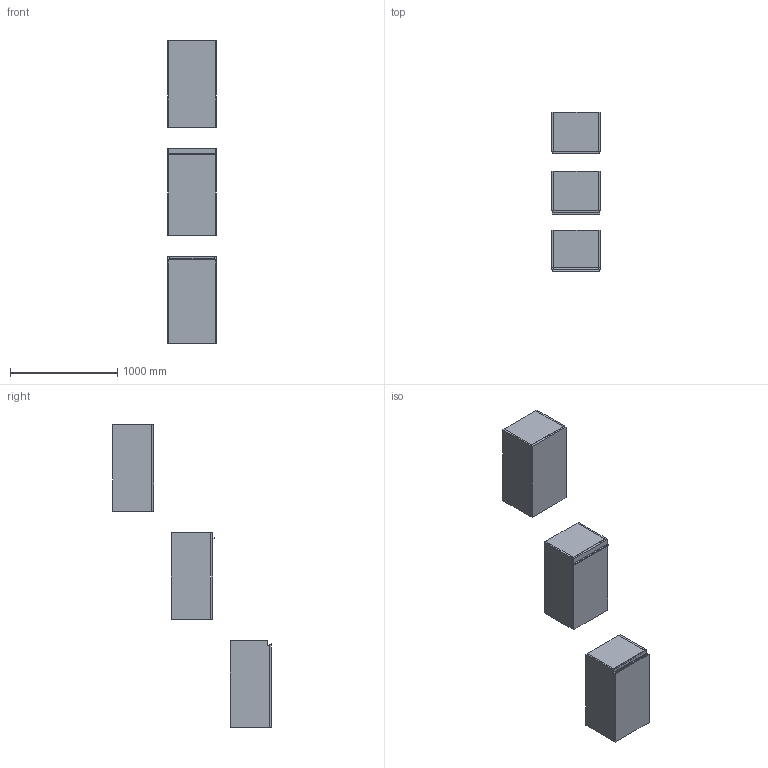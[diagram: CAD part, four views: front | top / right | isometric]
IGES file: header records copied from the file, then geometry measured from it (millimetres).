
Start section: Data from Parasolid IGES Translator 19.0.9, Copyright(c) 2006 Siemens PL M Software. All Rights Reserved.
Global section: file name: noorth-SI-H 81,2 D 38,8 W 45_8689.igs; native system: By Siemens PLM Incorporated; preprocessor: XPlus GENERIC/IGES 19.0.9; author: Noname; organization: Noname; date: 20200601.123859; units: metre
Bounding box: 450.01 x 1485.1 x 2832.01 mm (x, y, z)
Volume: 66214171.4 mm3; surface area: 10086424 mm2
Topology: 20 solids, 20 shells, 178 faces, 382 edges, 234 vertices
Faces by surface type: plane 134, extrusion 16, bspline 16, cylinder 12
